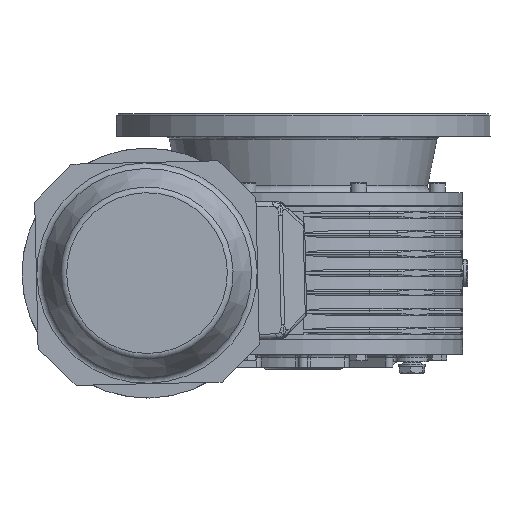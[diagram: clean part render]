
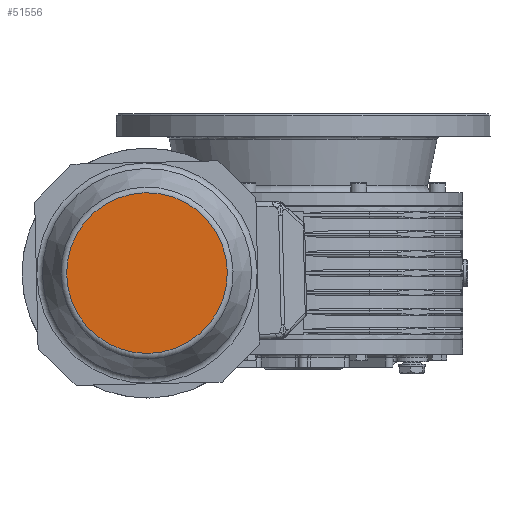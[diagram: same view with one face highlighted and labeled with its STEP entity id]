
A CAD part, left-side view. The second image highlights one B-rep face of the part: STEP entity #51556.
In plain terms, the highlighted planar face has unit normal (-1, 0, 0) as drawn and (1, 0, 0) by its records, which use the part's own axes.
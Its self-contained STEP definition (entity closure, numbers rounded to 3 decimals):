
#51533=CARTESIAN_POINT('',(308.,0.0,64.298));
#51534=VERTEX_POINT('',#51533);
#51535=CARTESIAN_POINT('',(308.0,0.0,0.));
#51536=DIRECTION('',(-1.0,0.0,0.0));
#51537=DIRECTION('',(0.0,0.0,-1.0));
#51538=AXIS2_PLACEMENT_3D('',#51535,#51536,#51537);
#51539=CIRCLE('',#51538,64.298);
#51540=EDGE_CURVE('',#51534,#51534,#51539,.T.);
#51548=CARTESIAN_POINT('',(308.0,0.0,33.75));
#51549=DIRECTION('',(1.0,0.0,0.0));
#51550=DIRECTION('',(0.0,0.0,-1.0));
#51551=AXIS2_PLACEMENT_3D('',#51548,#51549,#51550);
#51552=PLANE('',#51551);
#51553=ORIENTED_EDGE('',*,*,#51540,.F.);
#51554=EDGE_LOOP('',(#51553));
#51555=FACE_OUTER_BOUND('',#51554,.T.);
#51556=ADVANCED_FACE('',(#51555),#51552,.T.);
